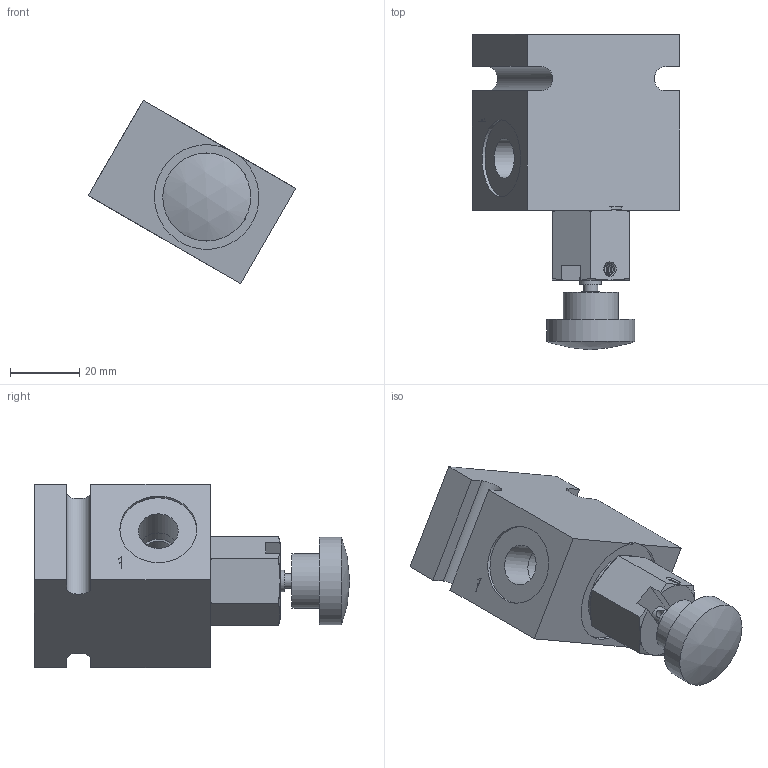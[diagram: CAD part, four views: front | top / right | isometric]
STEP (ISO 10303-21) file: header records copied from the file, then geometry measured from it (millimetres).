
FILE_DESCRIPTION( ( 'Unknown' ), '1' );
FILE_NAME( 'G:/Graphic Design/Graphic Design 2/Data Sheets/MANUAL_MECH OPERATED VALVES/4_STEP/2W2P Manual Valves/D-PBMCA0K-A2.stp', 'Unknown', ( 'Unknown' ), ( 'Unknown' ), 'PSStep 16.0.42', 'Unknown', ' ' );
FILE_SCHEMA( ( 'AUTOMOTIVE_DESIGN { 1 0 10303 214 1 1 1 1 }' ) );
Length unit declared in the file: millimetre
Products named in the file (7): D-PB-MCA-0K; PBMCA0K-3D Full1; PBMCA0K-3D Full2; PBMCA0K-3D Full3; PBMCA0K-3D Full4; Assem1; B-DPBA2
Assembly tree (6 placements, depth 3):
  Assem1
    B-DPBA2
    D-PB-MCA-0K
      PBMCA0K-3D Full1
      PBMCA0K-3D Full2
      PBMCA0K-3D Full3
      PBMCA0K-3D Full4
Bounding box: 59.87 x 91.05 x 52.9 mm (x, y, z)
Surface area: 22552.6 mm2 (no closed solid volume)
Topology: 0 solids, 178 shells, 178 faces, 743 edges, 668 vertices
Faces by surface type: plane 87, cone 44, cylinder 39, torus 5, sphere 3
Full cylindrical faces by diameter (mm): 0.2 x2, 2.426 x1, 4.064 x1, 4.775 x5, 6.248 x1, 6.35 x1, 9.258 x1, 9.373 x1, 9.528 x1, 9.842 x1, 9.928 x1, 10.16 x1, 10.5 x1, 11 x1, 11.5 x4, 12.62 x1, 12.624 x2, 12.7 x1, 15.824 x1, 15.85 x1, 16.751 x1, 17.33 x2, 22.22 x2, 22.225 x1, 25.4 x1
Entity records: 9578 total; most frequent: CARTESIAN_POINT 2944, DIRECTION 1022, VERTEX_POINT 648, ORIENTED_EDGE 646, EDGE_CURVE 646, AXIS2_PLACEMENT_3D 418, FACE_BOUND 286, EDGE_LOOP 284
